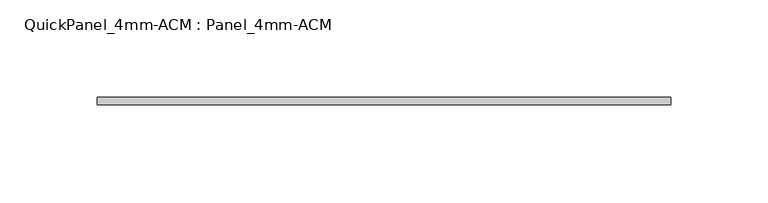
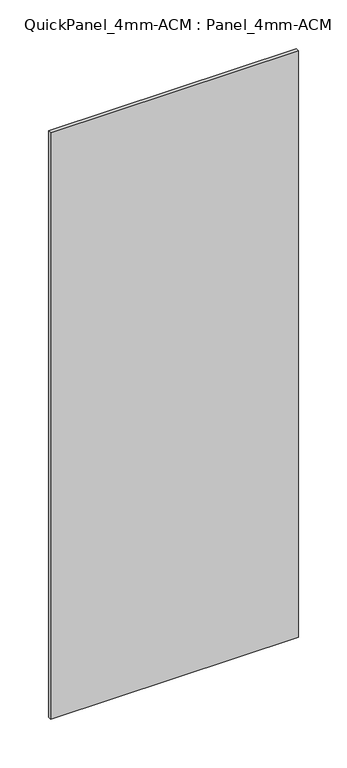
"""IFC4 building model written with IfcOpenShell, lengths in millimetres: plate geometry, QuickPanel_4mm-ACM : Panel_4mm-ACM."""

from ifc_helpers import new_model, si_unit, origin, origin_with_axes, place, context, project, spatial, polyline, outline, extrude, source, transform, mapped, element, save


def quickpanel_4mm_acm_panel_4mm_acm_e8283b51(model_context):
    return source(origin(), model_context, "Body", "SweptSolid", [
        extrude(outline(polyline([(-146.9553535, -6.096), (146.9553535, -6.096), (146.9553535, -9.906), (-146.9553535, -9.906), (-146.9553535, -6.096)])), origin_with_axes(), (0.0, 0.0, 1.0), 734.3930447),
    ])


if __name__ == "__main__":
    model = new_model("IFC4")
    model_context = context("Model", 3, world=origin())
    ifc_project = project(units=[si_unit("LENGTHUNIT", "METRE", prefix="MILLI")], contexts=[model_context])
    site = spatial("IfcSite", under=ifc_project)
    building = spatial("IfcBuilding", under=site)
    placement = place(None, origin())
    quickpanel_4mm_acm_panel_4mm_acm_shape = quickpanel_4mm_acm_panel_4mm_acm_e8283b51(model_context)
    element("IfcPlate", 1, ObjectType="QuickPanel_4mm-ACM : Panel_4mm-ACM", at=placement, inside=building, context=model_context, shape_type="MappedRepresentation", body=[
        mapped(quickpanel_4mm_acm_panel_4mm_acm_shape, transform((0.0, 0.0, 0.0), x_axis=(1.0, 0.0, 0.0), y_axis=(0.0, 1.0, 0.0), z_axis=(0.0, 0.0, 1.0))),
    ])
    save(model, "model.ifc")
